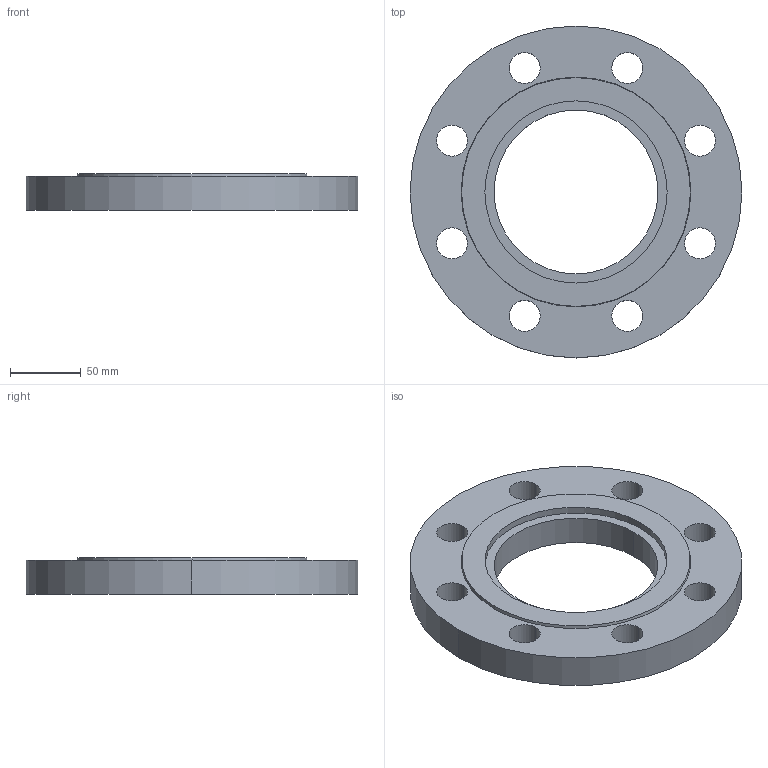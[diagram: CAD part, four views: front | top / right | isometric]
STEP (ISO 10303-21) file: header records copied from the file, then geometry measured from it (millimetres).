
FILE_DESCRIPTION (( 'STEP AP214' ), '1' );
FILE_NAME ('PN40 DN100 Type 01 - Type G Face.STEP', '2019-01-02T00:28:29', ( '' ), ( '' ), 'SwSTEP 2.0', 'SolidWorks 2019', '' );
FILE_SCHEMA (( 'AUTOMOTIVE_DESIGN' ));
Length unit declared in the file: millimetre
Products named in the file (1): PN40 DN100 Type 01 - Type G Face
Bounding box: 235 x 235 x 26 mm (x, y, z)
Volume: 722101.2 mm3; surface area: 101052.3 mm2
Topology: 1 solids, 1 shells, 28 faces, 72 edges, 48 vertices
Faces by surface type: cylinder 22, plane 4, cone 2
Entity records: 954 total; most frequent: DIRECTION 178, CARTESIAN_POINT 149, ORIENTED_EDGE 144, AXIS2_PLACEMENT_3D 77, EDGE_CURVE 72, CIRCLE 48, EDGE_LOOP 48, VERTEX_POINT 48
